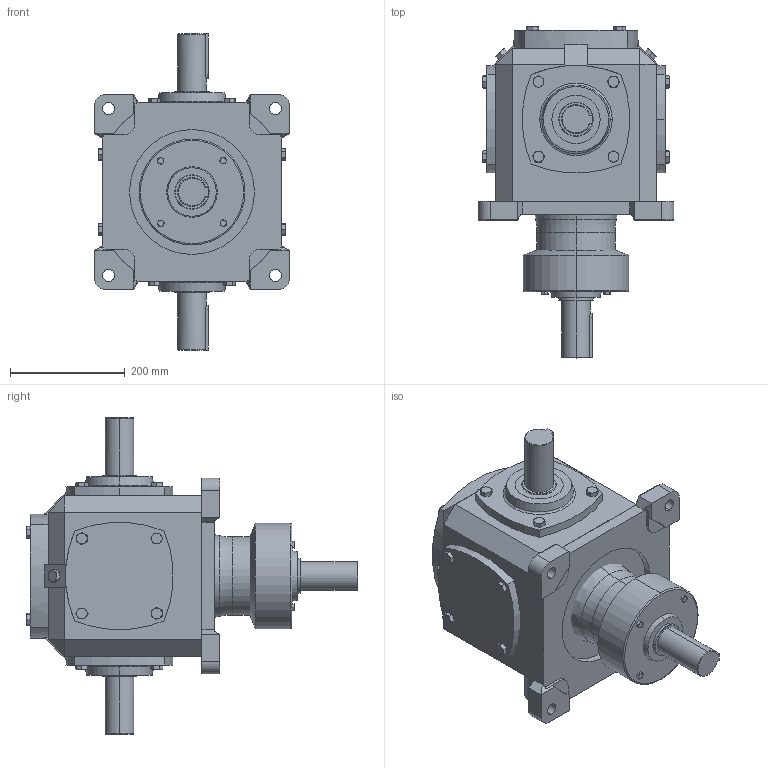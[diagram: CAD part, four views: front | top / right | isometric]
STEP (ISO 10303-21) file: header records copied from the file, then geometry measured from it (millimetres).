
FILE_DESCRIPTION (( 'STEP AP203' ), '1' );
FILE_NAME ('TC12-1-WX1-U6.step', '2018-07-14T01:57:27', ( 'IT Division' ), ( 'IT' ), 'SwSTEP 2.0', 'SolidWorks 2016', '' );
FILE_SCHEMA (( 'CONFIG_CONTROL_DESIGN' ));
Length unit declared in the file: millimetre
Products named in the file (1): TC12-1-WX1-U6
Bounding box: 340 x 577.37 x 550 mm (x, y, z)
Volume: 29427345.6 mm3; surface area: 908066.9 mm2
Topology: 2 solids, 2 shells, 604 faces, 1447 edges, 886 vertices
Faces by surface type: plane 300, cone 199, cylinder 93, torus 12
Entity records: 18627 total; most frequent: CARTESIAN_POINT 5017, ORIENTED_EDGE 2894, DIRECTION 2681, EDGE_CURVE 1447, AXIS2_PLACEMENT_3D 986, VERTEX_POINT 886, LINE 709, VECTOR 709
